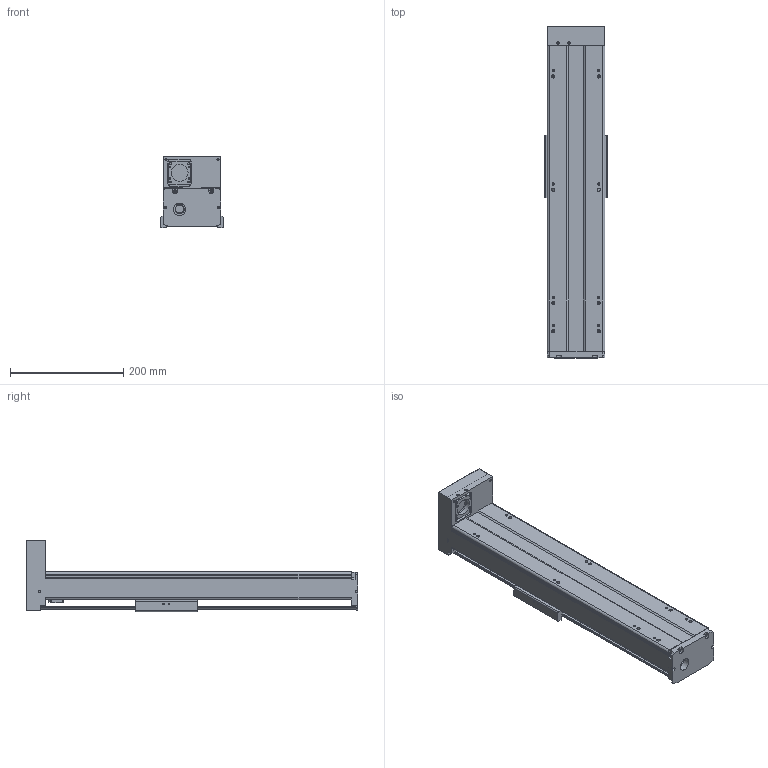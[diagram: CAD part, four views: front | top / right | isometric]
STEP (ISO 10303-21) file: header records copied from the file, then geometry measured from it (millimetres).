
FILE_DESCRIPTION(/* description */ (''),/* implementation_level */ '2;1');
FILE_NAME(/* name */ 'TKA100-FD-350_asm1.stp',/* time_stamp */ '2016-05-16T15:17:23+08:00',/* author */ (''),/* organization */ (''),/* preprocessor_version */ 'ST-DEVELOPER v15',/* originating_system */ 'SIEMENS PLM Software NX 8.5',/* authorisation */ '');
FILE_SCHEMA (('AUTOMOTIVE_DESIGN { 1 0 10303 214 3 1 1 1 }'));
Length unit declared in the file: millimetre
Products named in the file (3): 200-02; 200-01; TKA100-FD-350_asm1
Assembly tree (2 placements, depth 2):
  TKA100-FD-350_asm1
    200-01
    200-02
Bounding box: 110 x 586 x 127 mm (x, y, z)
Volume: 1414909.2 mm3; surface area: 494026 mm2
Topology: 2 solids, 9 shells, 771 faces, 1998 edges, 1295 vertices
Faces by surface type: cylinder 297, plane 292, cone 118, torus 38, bspline 26
Full cylindrical faces by diameter (mm): 2.5 x6, 2.6 x8, 3.3 x10, 3.4 x8, 3.8 x8, 4.2 x17, 4.3 x4, 4.5 x8, 5 x1, 5.5 x18, 6.6 x4, 8 x5, 9 x4, 10 x10, 11 x4, 12 x7, 15.3 x1, 16 x1, 22 x1, 24 x1, 28 x4, 30 x1, 33 x1
Entity records: 27892 total; most frequent: CARTESIAN_POINT 9962, DIRECTION 3738, ORIENTED_EDGE 3424, EDGE_CURVE 1712, AXIS2_PLACEMENT_3D 1488, VERTEX_POINT 1217, EDGE_LOOP 1092, ADVANCED_FACE 771
